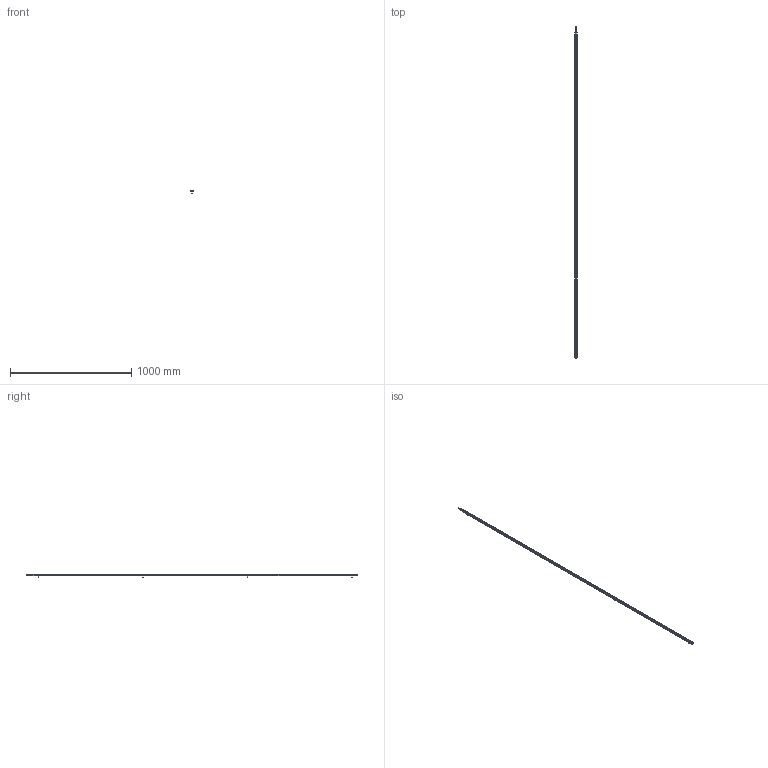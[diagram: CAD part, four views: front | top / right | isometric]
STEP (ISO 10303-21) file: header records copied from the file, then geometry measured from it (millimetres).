
FILE_DESCRIPTION (( 'STEP AP214' ), '1' );
FILE_NAME ('ILGA-B-K2-2680mm.STEP', '2026-04-24T23:05:55', ( '' ), ( '' ), 'SwSTEP 2.0', 'SolidWorks 2025', '' );
FILE_SCHEMA (( 'AUTOMOTIVE_DESIGN' ));
Length unit declared in the file: millimetre
Products named in the file (1): ILGA-B-K2-2680mm
Bounding box: 22.4 x 2734.5 x 25.7 mm (x, y, z)
Surface area: 364600.5 mm2 (no closed solid volume)
Topology: 0 solids, 17 shells, 975 faces, 2532 edges, 1571 vertices
Faces by surface type: cylinder 403, plane 364, cone 86, bspline 56, torus 50, sphere 16
Entity records: 42888 total; most frequent: CARTESIAN_POINT 8692, ORIENTED_EDGE 4945, DIRECTION 4896, EDGE_CURVE 2480, AXIS2_PLACEMENT_3D 1879, VERTEX_POINT 1571, VECTOR 1138, LINE 1138
